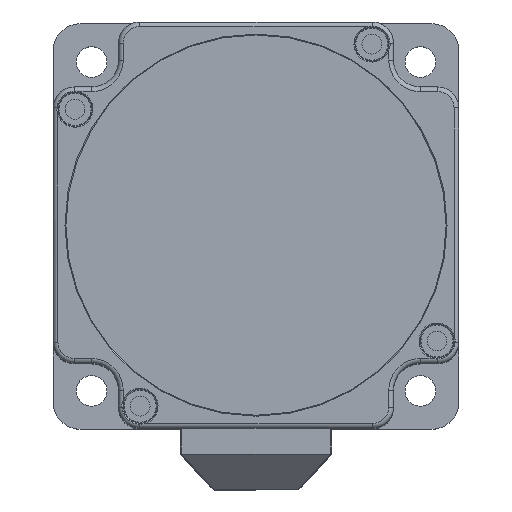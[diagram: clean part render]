
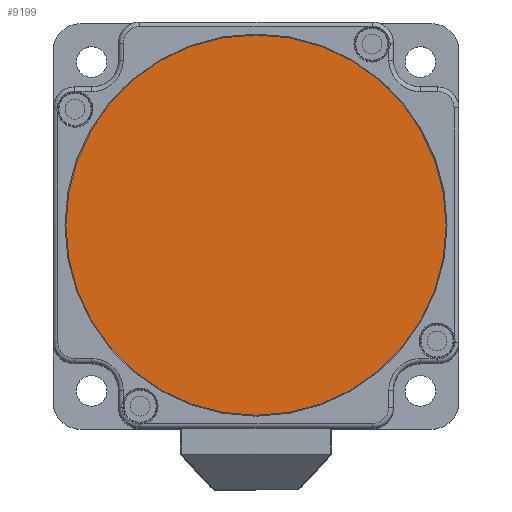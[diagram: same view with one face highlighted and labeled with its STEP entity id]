
A CAD part, top view. The second image highlights one B-rep face of the part: STEP entity #9199.
In plain terms, the highlighted planar face has unit normal (0, 0, 1) as drawn and (0, 0, -1) by its records, which use the part's own axes.
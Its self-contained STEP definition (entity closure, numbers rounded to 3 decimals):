
#357 = PLANE ( 'NONE',  #8619 ) ;
#1636 = DIRECTION ( 'NONE',  ( -1., 0., 0. ) ) ;
#2608 = VERTEX_POINT ( 'NONE', #14084 ) ;
#3553 = CIRCLE ( 'NONE', #11138, 40.25 ) ;
#4736 = CARTESIAN_POINT ( 'NONE',  ( 0., 0., 0.4 ) ) ;
#5567 = EDGE_CURVE ( 'NONE', #2608, #2608, #3553, .T. ) ;
#5770 = DIRECTION ( 'NONE',  ( 0., 0., -1. ) ) ;
#6207 = EDGE_LOOP ( 'NONE', ( #17391 ) ) ;
#8619 = AXIS2_PLACEMENT_3D ( 'NONE', #9962, #5770, #1636 ) ;
#9199 = ADVANCED_FACE ( 'NONE', ( #9471 ), #357, .T. ) ;
#9471 = FACE_OUTER_BOUND ( 'NONE', #6207, .T. ) ;
#9962 = CARTESIAN_POINT ( 'NONE',  ( 0., 0., 0.4 ) ) ;
#10248 = DIRECTION ( 'NONE',  ( 0., 0., -1. ) ) ;
#11138 = AXIS2_PLACEMENT_3D ( 'NONE', #4736, #10248, #14268 ) ;
#14084 = CARTESIAN_POINT ( 'NONE',  ( -40.25, 0., 0.4 ) ) ;
#14268 = DIRECTION ( 'NONE',  ( -1., 0., 0. ) ) ;
#17391 = ORIENTED_EDGE ( 'NONE', *, *, #5567, .T. ) ;
